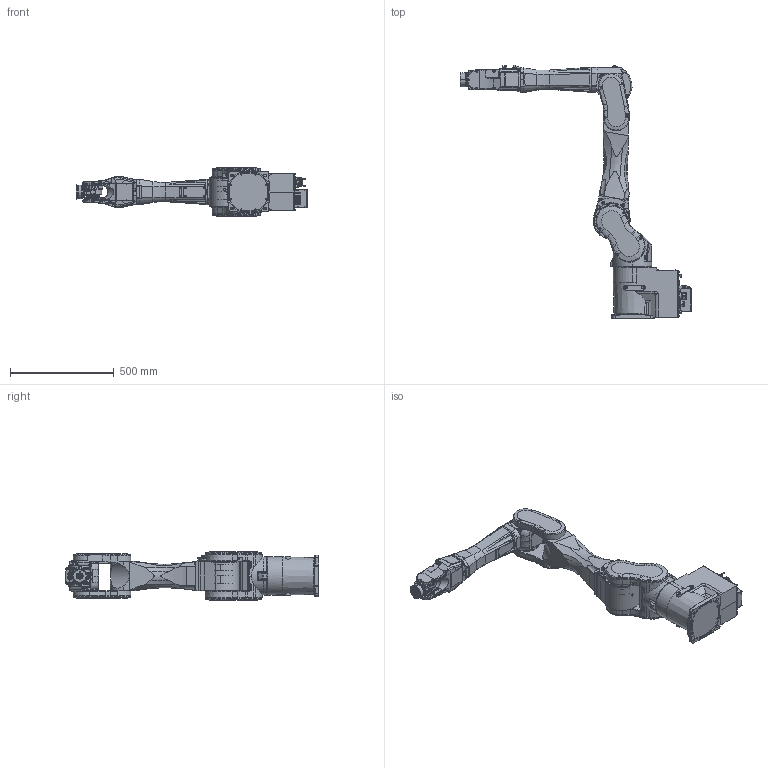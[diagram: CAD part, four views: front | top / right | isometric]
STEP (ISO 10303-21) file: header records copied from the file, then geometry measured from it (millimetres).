
FILE_DESCRIPTION((''),'2;1');
FILE_NAME('C12-A1401S_W__ASM','2019-11-01T',('5004197'),(''),'CREO PARAMETRIC BY PTC INC, 2017480','CREO PARAMETRIC BY PTC INC, 2017480','');
FILE_SCHEMA(('AUTOMOTIVE_DESIGN { 1 0 10303 214 1 1 1 1 }'));
Products named in the file (10): _C12-A1401S_BASE; _C12-A1401S_ARM1; _C12-A1401S_ARM2; _C12-A1401S_ARM3; _C12-A1401S_ARM4; _C12-A1401S_ARM5; _C12-A1401S_ARM6; _C12-A1401S_BASEFAN; C12-A1401S_W__1_ASM; C12-A1401S_W__ASM
Assembly tree (9 placements, depth 3):
  C12-A1401S_W__ASM
    C12-A1401S_W__1_ASM
      _C12-A1401S_BASE
      _C12-A1401S_ARM1
      _C12-A1401S_ARM2
      _C12-A1401S_ARM3
      _C12-A1401S_ARM4
      _C12-A1401S_ARM5
      _C12-A1401S_ARM6
      _C12-A1401S_BASEFAN
Bounding box: 1116.5 x 1222.5 x 236 mm (x, y, z)
Volume: 39185469.8 mm3; surface area: 2108666.4 mm2
Topology: 8 solids, 11 shells, 5403 faces, 13881 edges, 8928 vertices
Faces by surface type: plane 2798, cylinder 1467, cone 652, torus 351, sphere 81, bspline 54
Entity records: 222432 total; most frequent: CARTESIAN_POINT 51404, DIRECTION 28061, ORIENTED_EDGE 27466, EDGE_CURVE 13733, AXIS2_PLACEMENT_3D 10173, VERTEX_POINT 8928, VECTOR 7715, LINE 7715
